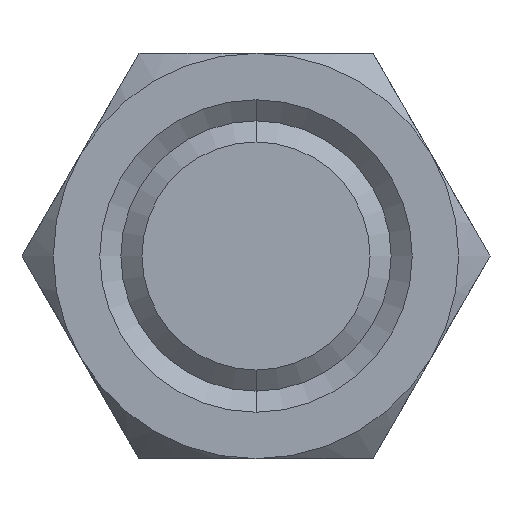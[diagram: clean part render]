
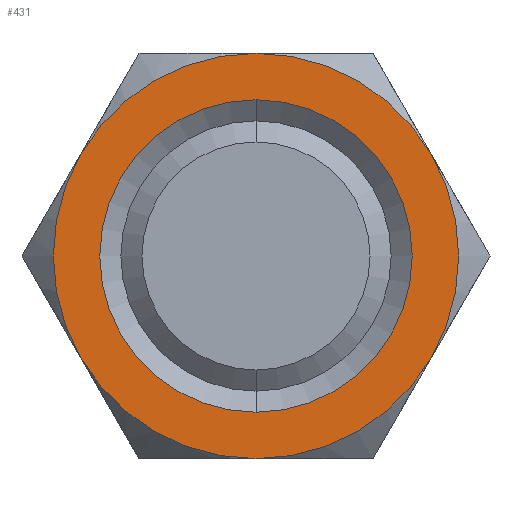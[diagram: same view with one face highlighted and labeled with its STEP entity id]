
A CAD part, front view. The second image highlights one B-rep face of the part: STEP entity #431.
In plain terms, the highlighted planar face has unit normal (0, -1, 0).
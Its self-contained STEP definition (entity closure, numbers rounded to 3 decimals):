
#415 = EDGE_CURVE ( 'NONE', #443, #416, #2209, .T. ) ;
#416 = VERTEX_POINT ( 'NONE', #2204 ) ;
#431 = ADVANCED_FACE ( 'NONE', ( #2235, #2234 ), #2233, .F. ) ;
#443 = VERTEX_POINT ( 'NONE', #2269 ) ;
#460 = ORIENTED_EDGE ( 'NONE', *, *, #461, .F. ) ;
#461 = EDGE_CURVE ( 'NONE', #475, #487, #2293, .T. ) ;
#462 = EDGE_LOOP ( 'NONE', ( #463, #465 ) ) ;
#463 = ORIENTED_EDGE ( 'NONE', *, *, #464, .F. ) ;
#464 = EDGE_CURVE ( 'NONE', #416, #443, #2288, .T. ) ;
#465 = ORIENTED_EDGE ( 'NONE', *, *, #415, .F. ) ;
#471 = EDGE_LOOP ( 'NONE', ( #472, #476, #479, #482, #485, #460 ) ) ;
#472 = ORIENTED_EDGE ( 'NONE', *, *, #473, .F. ) ;
#473 = EDGE_CURVE ( 'NONE', #474, #475, #2334, .T. ) ;
#474 = VERTEX_POINT ( 'NONE', #2329 ) ;
#475 = VERTEX_POINT ( 'NONE', #2328 ) ;
#476 = ORIENTED_EDGE ( 'NONE', *, *, #477, .F. ) ;
#477 = EDGE_CURVE ( 'NONE', #478, #474, #2326, .T. ) ;
#478 = VERTEX_POINT ( 'NONE', #2327 ) ;
#479 = ORIENTED_EDGE ( 'NONE', *, *, #480, .F. ) ;
#480 = EDGE_CURVE ( 'NONE', #481, #478, #2320, .T. ) ;
#481 = VERTEX_POINT ( 'NONE', #2321 ) ;
#482 = ORIENTED_EDGE ( 'NONE', *, *, #483, .F. ) ;
#483 = EDGE_CURVE ( 'NONE', #484, #481, #2315, .T. ) ;
#484 = VERTEX_POINT ( 'NONE', #2310 ) ;
#485 = ORIENTED_EDGE ( 'NONE', *, *, #486, .T. ) ;
#486 = EDGE_CURVE ( 'NONE', #484, #487, #2308, .T. ) ;
#487 = VERTEX_POINT ( 'NONE', #2309 ) ;
#2204 = CARTESIAN_POINT ( 'NONE',  ( 0., 0., -11.561 ) ) ;
#2205 = DIRECTION ( 'NONE',  ( 0., 0., -1. ) ) ;
#2206 = DIRECTION ( 'NONE',  ( 0., -1., 0. ) ) ;
#2207 = CARTESIAN_POINT ( 'NONE',  ( 0., 0., 0. ) ) ;
#2208 = AXIS2_PLACEMENT_3D ( 'NONE', #2207, #2206, #2205 ) ;
#2209 = CIRCLE ( 'NONE', #2208, 11.561 ) ;
#2228 = DIRECTION ( 'NONE',  ( 0., 0., 1. ) ) ;
#2229 = DIRECTION ( 'NONE',  ( 0., 1., 0. ) ) ;
#2230 = CARTESIAN_POINT ( 'NONE',  ( 17.321, 0., 0. ) ) ;
#2232 = AXIS2_PLACEMENT_3D ( 'NONE', #2230, #2229, #2228 ) ;
#2233 = PLANE ( 'NONE',  #2232 ) ;
#2234 = FACE_BOUND ( 'NONE', #462, .T. ) ;
#2235 = FACE_OUTER_BOUND ( 'NONE', #471, .T. ) ;
#2269 = CARTESIAN_POINT ( 'NONE',  ( 0., 0., 11.561 ) ) ;
#2285 = DIRECTION ( 'NONE',  ( 0., 0., -1. ) ) ;
#2286 = DIRECTION ( 'NONE',  ( 0., -1., 0. ) ) ;
#2287 = AXIS2_PLACEMENT_3D ( 'NONE', #2294, #2286, #2285 ) ;
#2288 = CIRCLE ( 'NONE', #2287, 11.561 ) ;
#2289 = DIRECTION ( 'NONE',  ( 0., 0., 1. ) ) ;
#2290 = DIRECTION ( 'NONE',  ( 0., 1., 0. ) ) ;
#2291 = CARTESIAN_POINT ( 'NONE',  ( 0., 0., 0. ) ) ;
#2292 = AXIS2_PLACEMENT_3D ( 'NONE', #2291, #2290, #2289 ) ;
#2293 = CIRCLE ( 'NONE', #2292, 15. ) ;
#2294 = CARTESIAN_POINT ( 'NONE',  ( 0., 0., 0. ) ) ;
#2304 = DIRECTION ( 'NONE',  ( 0., 0., -1. ) ) ;
#2305 = DIRECTION ( 'NONE',  ( 0., -1., 0. ) ) ;
#2306 = CARTESIAN_POINT ( 'NONE',  ( 0., 0., 0. ) ) ;
#2307 = AXIS2_PLACEMENT_3D ( 'NONE', #2306, #2305, #2304 ) ;
#2308 = CIRCLE ( 'NONE', #2307, 15. ) ;
#2309 = CARTESIAN_POINT ( 'NONE',  ( 12.99, 0., -7.5 ) ) ;
#2310 = CARTESIAN_POINT ( 'NONE',  ( 0., 0., -15. ) ) ;
#2311 = DIRECTION ( 'NONE',  ( 0., 0., 1. ) ) ;
#2312 = DIRECTION ( 'NONE',  ( 0., 1., 0. ) ) ;
#2313 = CARTESIAN_POINT ( 'NONE',  ( 0., 0., 0. ) ) ;
#2314 = AXIS2_PLACEMENT_3D ( 'NONE', #2313, #2312, #2311 ) ;
#2315 = CIRCLE ( 'NONE', #2314, 15. ) ;
#2316 = DIRECTION ( 'NONE',  ( 0., 0., 1. ) ) ;
#2317 = DIRECTION ( 'NONE',  ( 0., 1., 0. ) ) ;
#2318 = CARTESIAN_POINT ( 'NONE',  ( 0., 0., 0. ) ) ;
#2319 = AXIS2_PLACEMENT_3D ( 'NONE', #2318, #2317, #2316 ) ;
#2320 = CIRCLE ( 'NONE', #2319, 15. ) ;
#2321 = CARTESIAN_POINT ( 'NONE',  ( -12.99, 0., -7.5 ) ) ;
#2322 = DIRECTION ( 'NONE',  ( 0., 0., 1. ) ) ;
#2323 = DIRECTION ( 'NONE',  ( 0., 1., 0. ) ) ;
#2324 = CARTESIAN_POINT ( 'NONE',  ( 0., 0., 0. ) ) ;
#2325 = AXIS2_PLACEMENT_3D ( 'NONE', #2324, #2323, #2322 ) ;
#2326 = CIRCLE ( 'NONE', #2325, 15. ) ;
#2327 = CARTESIAN_POINT ( 'NONE',  ( -12.99, 0., 7.5 ) ) ;
#2328 = CARTESIAN_POINT ( 'NONE',  ( 12.99, 0., 7.5 ) ) ;
#2329 = CARTESIAN_POINT ( 'NONE',  ( 0., 0., 15. ) ) ;
#2330 = DIRECTION ( 'NONE',  ( 0., 0., 1. ) ) ;
#2331 = DIRECTION ( 'NONE',  ( 0., 1., 0. ) ) ;
#2332 = CARTESIAN_POINT ( 'NONE',  ( 0., 0., 0. ) ) ;
#2333 = AXIS2_PLACEMENT_3D ( 'NONE', #2332, #2331, #2330 ) ;
#2334 = CIRCLE ( 'NONE', #2333, 15. ) ;
